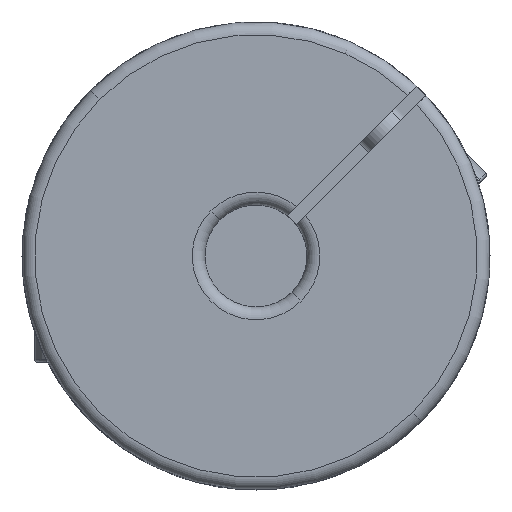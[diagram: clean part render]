
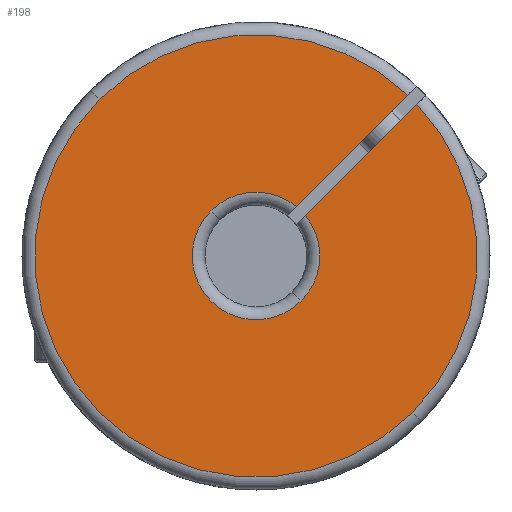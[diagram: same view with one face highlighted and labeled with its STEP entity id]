
A CAD part, front view. The second image highlights one B-rep face of the part: STEP entity #198.
In plain terms, the highlighted planar face has unit normal (0, -1, 0) as drawn and (-1, 0, 0) by its records, which use the part's own axes.
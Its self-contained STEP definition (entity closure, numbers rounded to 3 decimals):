
#43 = CARTESIAN_POINT ( 'NONE',  ( 0., -3.5, -0.75 ) ) ;
#114 = VERTEX_POINT ( 'NONE', #1554 ) ;
#130 = ORIENTED_EDGE ( 'NONE', *, *, #3255, .T. ) ;
#198 = ADVANCED_FACE ( 'NONE', ( #2459 ), #7994, .T. ) ;
#371 = DIRECTION ( 'NONE',  ( -1., 0., 0. ) ) ;
#650 = CARTESIAN_POINT ( 'NONE',  ( 0., -3.5, 0.75 ) ) ;
#724 = VECTOR ( 'NONE', #3854, 1000. ) ;
#763 = VERTEX_POINT ( 'NONE', #5088 ) ;
#826 = VERTEX_POINT ( 'NONE', #3386 ) ;
#984 = CARTESIAN_POINT ( 'NONE',  ( 0., 0., 0. ) ) ;
#1040 = VECTOR ( 'NONE', #3228, 1000. ) ;
#1045 = DIRECTION ( 'NONE',  ( -1., 0., 0. ) ) ;
#1056 = VERTEX_POINT ( 'NONE', #7002 ) ;
#1076 = EDGE_CURVE ( 'NONE', #763, #1056, #4174, .T. ) ;
#1083 = CARTESIAN_POINT ( 'NONE',  ( 0., 0., 0. ) ) ;
#1199 = CARTESIAN_POINT ( 'NONE',  ( 0., -25.989, 0.75 ) ) ;
#1554 = CARTESIAN_POINT ( 'NONE',  ( 0., -25.989, -0.75 ) ) ;
#1732 = VERTEX_POINT ( 'NONE', #1199 ) ;
#1744 = LINE ( 'NONE', #43, #1040 ) ;
#1759 = CARTESIAN_POINT ( 'NONE',  ( 0., 0., 0. ) ) ;
#1839 = DIRECTION ( 'NONE',  ( -1., 0., 0. ) ) ;
#1917 = AXIS2_PLACEMENT_3D ( 'NONE', #1759, #5198, #2533 ) ;
#2161 = EDGE_CURVE ( 'NONE', #4039, #114, #7485, .T. ) ;
#2207 = EDGE_CURVE ( 'NONE', #826, #763, #7612, .T. ) ;
#2253 = DIRECTION ( 'NONE',  ( 0., 0., 1. ) ) ;
#2338 = AXIS2_PLACEMENT_3D ( 'NONE', #8084, #1839, #4370 ) ;
#2459 = FACE_OUTER_BOUND ( 'NONE', #4457, .T. ) ;
#2507 = VERTEX_POINT ( 'NONE', #6304 ) ;
#2512 = DIRECTION ( 'NONE',  ( 0., 0., 1. ) ) ;
#2533 = DIRECTION ( 'NONE',  ( 0., 0., 1. ) ) ;
#2858 = AXIS2_PLACEMENT_3D ( 'NONE', #984, #371, #7938 ) ;
#2876 = ORIENTED_EDGE ( 'NONE', *, *, #2161, .T. ) ;
#2939 = CARTESIAN_POINT ( 'NONE',  ( 0., 0., -26. ) ) ;
#3078 = DIRECTION ( 'NONE',  ( 0., 0., 1. ) ) ;
#3113 = CARTESIAN_POINT ( 'NONE',  ( 0., -7.462, -0.75 ) ) ;
#3132 = AXIS2_PLACEMENT_3D ( 'NONE', #3754, #8175, #2512 ) ;
#3168 = ORIENTED_EDGE ( 'NONE', *, *, #7032, .F. ) ;
#3228 = DIRECTION ( 'NONE',  ( 0., -1., 0. ) ) ;
#3255 = EDGE_CURVE ( 'NONE', #1732, #2507, #6434, .T. ) ;
#3386 = CARTESIAN_POINT ( 'NONE',  ( 0., -7.462, 0.75 ) ) ;
#3754 = CARTESIAN_POINT ( 'NONE',  ( 0., 0., 0. ) ) ;
#3854 = DIRECTION ( 'NONE',  ( 0., 1., 0. ) ) ;
#4039 = VERTEX_POINT ( 'NONE', #2939 ) ;
#4174 = CIRCLE ( 'NONE', #1917, 7.5 ) ;
#4370 = DIRECTION ( 'NONE',  ( 0., 0., 1. ) ) ;
#4457 = EDGE_LOOP ( 'NONE', ( #5095, #3168, #7440, #5139, #5612, #130, #6107, #2876 ) ) ;
#4612 = EDGE_CURVE ( 'NONE', #6763, #114, #1744, .T. ) ;
#5043 = EDGE_CURVE ( 'NONE', #1732, #826, #6336, .T. ) ;
#5088 = CARTESIAN_POINT ( 'NONE',  ( 0., 0., 7.5 ) ) ;
#5095 = ORIENTED_EDGE ( 'NONE', *, *, #4612, .F. ) ;
#5139 = ORIENTED_EDGE ( 'NONE', *, *, #2207, .F. ) ;
#5198 = DIRECTION ( 'NONE',  ( -1., 0., 0. ) ) ;
#5271 = AXIS2_PLACEMENT_3D ( 'NONE', #7014, #6890, #7463 ) ;
#5403 = CIRCLE ( 'NONE', #5792, 7.5 ) ;
#5539 = CARTESIAN_POINT ( 'NONE',  ( 0., 0., 0. ) ) ;
#5612 = ORIENTED_EDGE ( 'NONE', *, *, #5043, .F. ) ;
#5792 = AXIS2_PLACEMENT_3D ( 'NONE', #1083, #1045, #2253 ) ;
#6107 = ORIENTED_EDGE ( 'NONE', *, *, #8035, .T. ) ;
#6217 = CIRCLE ( 'NONE', #7259, 26. ) ;
#6238 = DIRECTION ( 'NONE',  ( -1., 0., 0. ) ) ;
#6304 = CARTESIAN_POINT ( 'NONE',  ( 0., 0., 26. ) ) ;
#6336 = LINE ( 'NONE', #650, #724 ) ;
#6434 = CIRCLE ( 'NONE', #2858, 26. ) ;
#6763 = VERTEX_POINT ( 'NONE', #3113 ) ;
#6890 = DIRECTION ( 'NONE',  ( -1., 0., 0. ) ) ;
#7002 = CARTESIAN_POINT ( 'NONE',  ( 0., 0., -7.5 ) ) ;
#7014 = CARTESIAN_POINT ( 'NONE',  ( 0., 0., 0. ) ) ;
#7032 = EDGE_CURVE ( 'NONE', #1056, #6763, #5403, .T. ) ;
#7259 = AXIS2_PLACEMENT_3D ( 'NONE', #5539, #6238, #3078 ) ;
#7440 = ORIENTED_EDGE ( 'NONE', *, *, #1076, .F. ) ;
#7463 = DIRECTION ( 'NONE',  ( 0., 0., 1. ) ) ;
#7485 = CIRCLE ( 'NONE', #5271, 26. ) ;
#7612 = CIRCLE ( 'NONE', #3132, 7.5 ) ;
#7938 = DIRECTION ( 'NONE',  ( 0., 0., 1. ) ) ;
#7994 = PLANE ( 'NONE',  #2338 ) ;
#8035 = EDGE_CURVE ( 'NONE', #2507, #4039, #6217, .T. ) ;
#8084 = CARTESIAN_POINT ( 'NONE',  ( 0., 0., 7.5 ) ) ;
#8175 = DIRECTION ( 'NONE',  ( -1., 0., 0. ) ) ;
